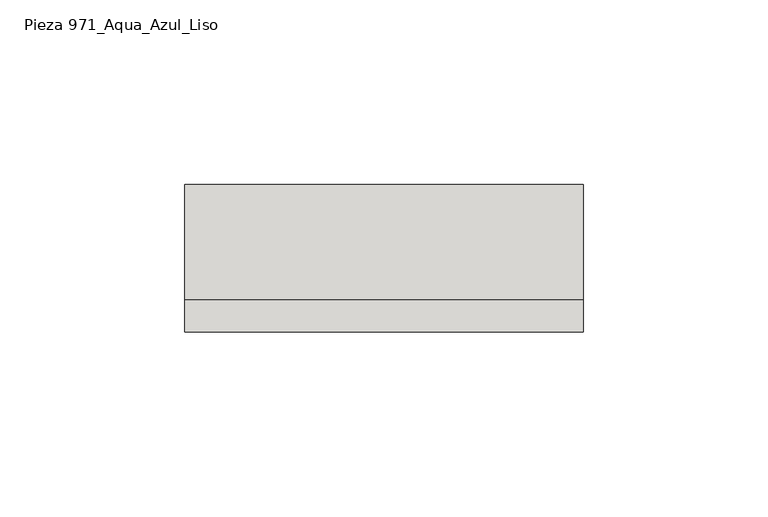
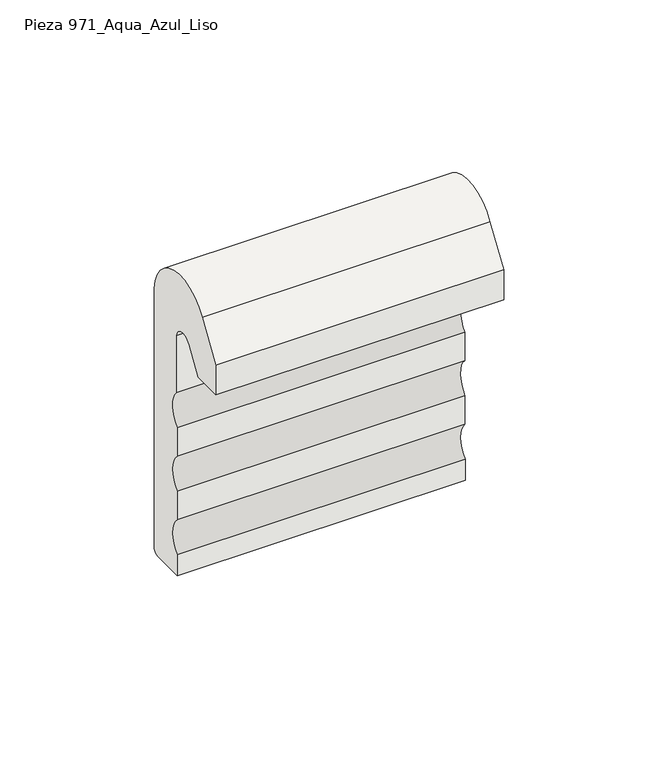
"""IFC4 building model written with IfcOpenShell, lengths in millimetres: slab geometry, ROSA GRES_971 : Pieza 971_Aqua_Azul_Liso."""

from ifc_helpers import new_model, si_unit, point, frame, frame_2d, origin, place, context, project, spatial, polyline, circle_curve, trimmed, segment, composite_curve, outline, extrude, source, transform, mapped, element, save


def pieza_971_aqua_azul_liso_ef726bf5(model_context):
    return source(origin(), model_context, "Body", "SweptSolid", [
        extrude(outline(composite_curve([segment(trimmed(circle_curve(frame_2d((-16.8529233, 144.6319512)), 16.9196478), [point((-31.1851409, 153.6242825))], [point((0.0, 146.1331033))], False, "CARTESIAN"), True, "CONTINUOUS"), segment(polyline([(0.0, 146.1331033), (0.0, 44.0250913)]), True, "CONTINUOUS"), segment(trimmed(circle_curve(frame_2d((-2.68, 44.0250913)), 2.68), [point((0.0, 44.0250913))], [point((-2.68, 41.3450913))], False, "CARTESIAN"), True, "CONTINUOUS"), segment(polyline([(-2.68, 41.3450913), (-15.0062809, 41.3450913), (-15.0062809, 49.6275439)]), True, "CONTINUOUS"), segment(trimmed(circle_curve(frame_2d((-21.3959123, 56.5905141)), 9.450415), [point((-15.0062809, 49.6275439))], [point((-14.9614723, 63.5120982))], True, "CARTESIAN"), True, "CONTINUOUS"), segment(polyline([(-14.9614723, 63.5120982), (-14.9614723, 74.8171516)]), True, "CONTINUOUS"), segment(trimmed(circle_curve(frame_2d((-21.3511036, 81.7801218)), 9.450415), [point((-14.9614723, 74.8171516))], [point((-14.9166636, 88.7017059))], True, "CARTESIAN"), True, "CONTINUOUS"), segment(polyline([(-14.9166636, 88.7017059), (-14.9166636, 100.0067593)]), True, "CONTINUOUS"), segment(trimmed(circle_curve(frame_2d((-21.3613471, 107.0507801)), 9.5473648), [point((-14.9166636, 100.0067593))], [point((-14.3481673, 113.5290116))], True, "CARTESIAN"), True, "CONTINUOUS"), segment(polyline([(-14.3481673, 113.5290116), (-14.3481673, 136.0931579)]), True, "CONTINUOUS"), segment(trimmed(circle_curve(frame_2d((-18.761148, 135.3324983)), 4.4780578), [point((-14.3481673, 136.0931579))], [point((-22.7114874, 137.4414839))], True, "CARTESIAN"), True, "CONTINUOUS"), segment(polyline([(-22.7114874, 137.4414839), (-28.5599154, 128.1510212), (-39.9975962, 128.1510212), (-39.9975962, 139.9882747), (-31.1851409, 153.6242825)]), True, "CONTINUOUS")], self_intersect=False)), frame((0.0, 0.0, 0.0), z_axis=(1.0, 0.0, 0.0), x_axis=(0.0, 1.0, 0.0)), (0.0, 0.0, 1.0), 107.9017576),
    ])


if __name__ == "__main__":
    model = new_model("IFC4")
    model_context = context("Model", 3, world=origin())
    ifc_project = project(units=[si_unit("LENGTHUNIT", "METRE", prefix="MILLI")], contexts=[model_context])
    site = spatial("IfcSite", under=ifc_project)
    building = spatial("IfcBuilding", under=site)
    placement = place(None, origin())
    pieza_971_aqua_azul_liso_shape = pieza_971_aqua_azul_liso_ef726bf5(model_context)
    element("IfcSlab", 1, ObjectType="ROSA GRES_971 : Pieza 971_Aqua_Azul_Liso", at=placement, inside=building, context=model_context, shape_type="MappedRepresentation", body=[
        mapped(pieza_971_aqua_azul_liso_shape, transform((0.0, 0.0, 0.0), x_axis=(1.0, 0.0, 0.0), y_axis=(0.0, 1.0, 0.0), z_axis=(0.0, 0.0, 1.0))),
    ])
    save(model, "model.ifc")
